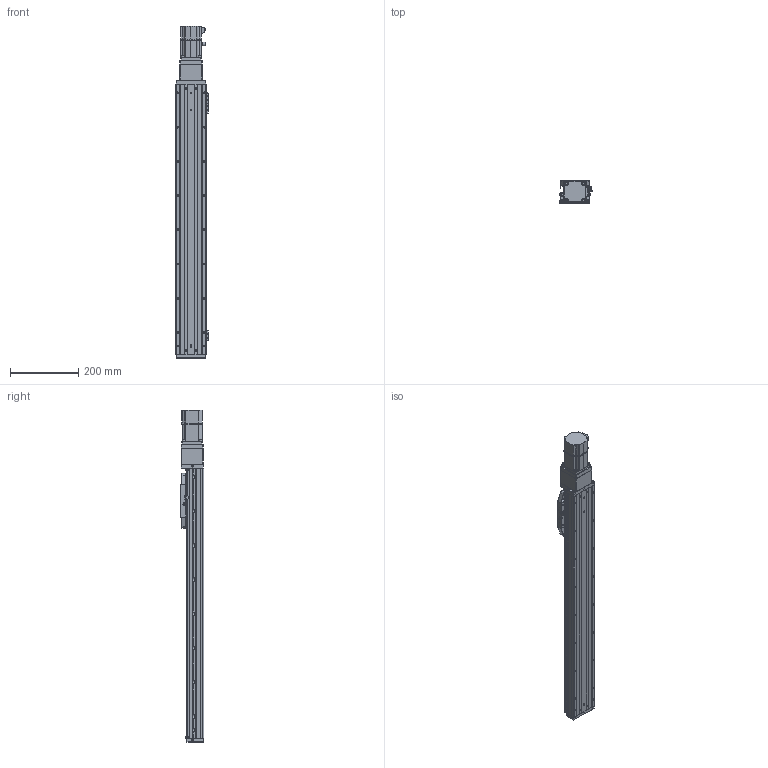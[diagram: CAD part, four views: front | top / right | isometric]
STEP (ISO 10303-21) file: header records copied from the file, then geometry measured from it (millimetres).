
FILE_DESCRIPTION (( 'STEP AP203' ), '1' );
FILE_NAME ('CTHA86-600-BC-M20-C4L.step', '2022-04-26T00:47:40', ( '微软用户' ), ( '微软中国' ), 'SwSTEP 2.0', 'SolidWorks 2020', '' );
FILE_SCHEMA (( 'CONFIG_CONTROL_DESIGN' ));
Length unit declared in the file: millimetre
Products named in the file (22): GBT 70.3-M3℅6; EE_SX911P_R; GBT 70.1-M3℅6; CTHA86-002; CTHA60-017; CTHA60-016; CTHA86-031; CTHA60-021; CTHA86-013; CTHA86-030; KTHA86-001_790; GBT77-2000 M3×3; CTHA86-027; CTHA86-600-BC-M20-C4L; KTHA86-004; GBT 70.1-M3×20; CTHA86-006-1_CTHA86-006-2; KTHA86-005; GBT70.1 M5℅16; _X2_4E0983F1_X0_200W_1; GB¨uT 70.2-M3¡Á5_M3¡Á6; GBT 70.1-M3×16
Assembly tree (65 placements, depth 2):
  CTHA86-600-BC-M20-C4L
    KTHA86-001_790
    KTHA86-004
    KTHA86-005
    GB¨uT 70.2-M3¡Á5_M3¡Á6  x10
    EE_SX911P_R  x3
    CTHA60-017  x3
    CTHA60-021  x2
    GBT77-2000 M3×3  x6
    GBT 70.1-M3×20
    GBT70.1 M5℅16  x14
    GBT 70.1-M3×16
    GBT 70.1-M3℅6  x6
    CTHA60-016  x2
    CTHA86-013
    CTHA86-027
    CTHA86-006-1_CTHA86-006-2
    _X2_4E0983F1_X0_200W_1
    GBT 70.3-M3℅6  x6
    CTHA86-002
    CTHA86-031
    CTHA86-030  x2
Bounding box: 93.82 x 68 x 970.5 mm (x, y, z)
Volume: 3258467.8 mm3; surface area: 580813.6 mm2
Topology: 67 solids, 67 shells, 2734 faces, 6527 edges, 4012 vertices
Faces by surface type: plane 1428, cylinder 703, cone 390, torus 120, bspline 69, sphere 24
Entity records: 48275 total; most frequent: CARTESIAN_POINT 8960, DIRECTION 7598, ORIENTED_EDGE 7310, EDGE_CURVE 3655, AXIS2_PLACEMENT_3D 2586, LINE 2426, VECTOR 2426, VERTEX_POINT 2290
